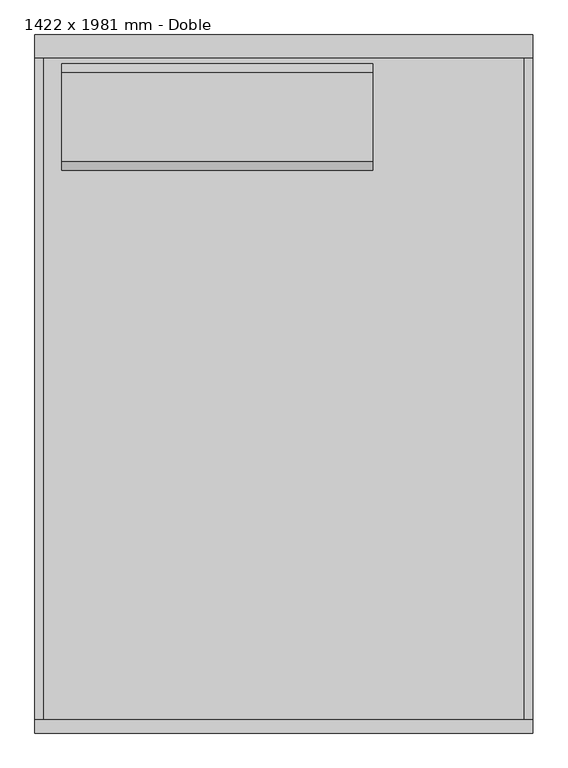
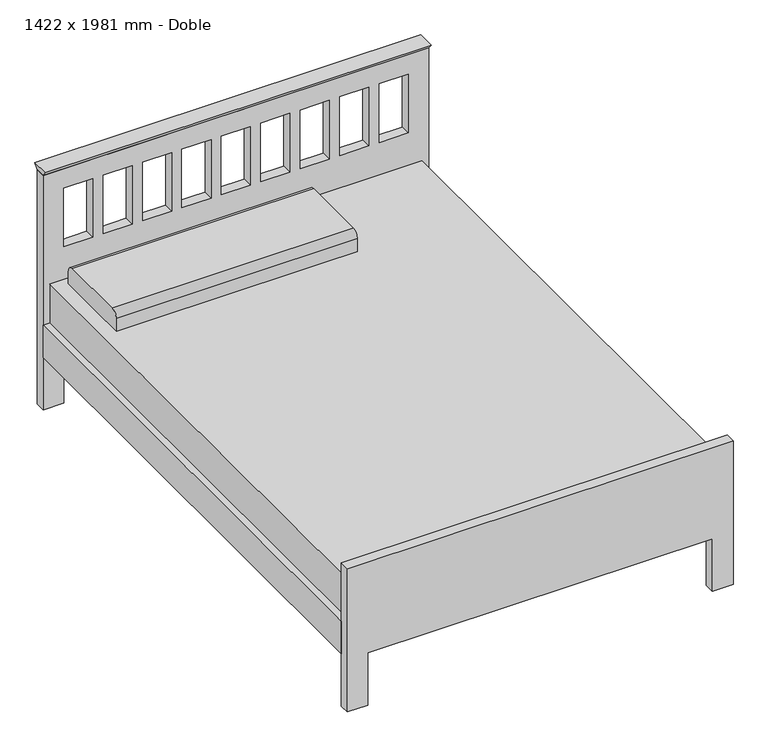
"""IFC4 building model written with IfcOpenShell, lengths in millimetres: furniture geometry, Cama-Agitador : 1422 x 1981 mm - Doble."""

from ifc_helpers import new_model, si_unit, point, frame, frame_2d, origin, place, context, project, spatial, polyline, circle_curve, trimmed, segment, composite_curve, outline, extrude, source, transform, mapped, element, save


def furniture_1422_x_1981_mm_doble_c85bece8(model_context):
    return source(origin(), model_context, "Body", "SweptSolid", [
        extrude(outline(polyline([(666.75, -38.1), (666.75, -1943.1), (-704.85, -1943.1), (-704.85, -38.1), (666.75, -38.1)])), frame((0.0, 0.0, 228.6), z_axis=(0.0, 0.0, 1.0), x_axis=(1.0, 0.0, 0.0)), (0.0, 0.0, 1.0), 254.0),
        extrude(outline(polyline([(666.75, -1943.1), (666.75, -38.1), (692.15, -38.1), (692.15, -1943.1), (666.75, -1943.1)])), frame((0.0, 0.0, 203.0994861), z_axis=(0.0, 0.0, 1.0), x_axis=(1.0, 0.0, 0.0)), (0.0, 0.0, 1.0), 127.0),
        extrude(outline(polyline([(-730.25, -1943.1), (-730.25, -38.1), (-704.85, -38.1), (-704.85, -1943.1), (-730.25, -1943.1)])), frame((0.0, 0.0, 203.5755296), z_axis=(0.0, 0.0, 1.0), x_axis=(1.0, 0.0, 0.0)), (0.0, 0.0, 1.0), 127.0),
        extrude(outline(polyline([(0.0, -654.05), (203.2, -654.05), (203.2, 615.95), (0.0, 615.95), (0.0, 692.15), (558.8, 692.15), (558.8, -730.25), (0.0, -730.25), (0.0, -654.05)])), frame((0.0, -1981.2, 0.0), z_axis=(0.0, 1.0, 0.0), x_axis=(0.0, 0.0, 1.0)), (0.0, 0.0, 1.0), 38.1),
        extrude(outline(polyline([(914.4, 692.4168067), (914.4, -730.0365546), (0.0, -730.0365546), (0.0, -654.05), (203.2, -654.05), (203.2, 234.95), (0.0, 234.95), (0.0, 692.4168067), (914.4, 692.4168067)]), holes=[polyline([(838.2, -546.8055556), (609.6, -546.8055556), (609.6, -654.05), (838.2, -654.05), (838.2, -546.8055556)]), polyline([(838.2, -401.4611111), (609.6, -401.4611111), (609.6, -508.7055556), (838.2, -508.7055556), (838.2, -401.4611111)]), polyline([(838.2, -256.1166667), (609.6, -256.1166667), (609.6, -363.3611111), (838.2, -363.3611111), (838.2, -256.1166667)]), polyline([(838.2, -110.7722222), (609.6, -110.7722222), (609.6, -218.0166667), (838.2, -218.0166667), (838.2, -110.7722222)]), polyline([(838.2, 179.9166667), (609.6, 179.9166667), (609.6, 72.6722222), (838.2, 72.6722222), (838.2, 179.9166667)]), polyline([(838.2, 325.2611111), (609.6, 325.2611111), (609.6, 218.0166667), (838.2, 218.0166667), (838.2, 325.2611111)]), polyline([(838.2, 470.6055556), (609.6, 470.6055556), (609.6, 363.3611111), (838.2, 363.3611111), (838.2, 470.6055556)]), polyline([(838.2, 615.95), (609.6, 615.95), (609.6, 508.7055556), (838.2, 508.7055556), (838.2, 615.95)]), polyline([(838.2, 34.5722222), (609.6, 34.5722222), (609.6, -72.6722222), (838.2, -72.6722222), (838.2, 34.5722222)])]), frame((0.0, -38.1, 0.0), z_axis=(0.0, 1.0, 0.0), x_axis=(0.0, 0.0, 1.0)), (0.0, 0.0, 1.0), 38.1),
        extrude(outline(polyline([(-38.1, 914.4), (-51.9545455, 933.45), (13.8545455, 933.45), (0.0, 914.4), (-38.1, 914.4)])), frame((-730.0365546, 0.0, 0.0), z_axis=(1.0, 0.0, 0.0), x_axis=(0.0, 1.0, 0.0)), (0.0, 0.0, 1.0), 1422.4533613),
        extrude(outline(composite_curve([segment(polyline([(-373.2486637, 482.6), (-373.2486637, 533.4)]), True, "CONTINUOUS"), segment(trimmed(circle_curve(frame_2d((-347.8486637, 533.4)), 25.4), [point((-373.2486637, 533.4))], [point((-347.8486637, 558.8))], False, "CARTESIAN"), True, "CONTINUOUS"), segment(polyline([(-347.8486637, 558.8), (-93.8486637, 558.8)]), True, "CONTINUOUS"), segment(trimmed(circle_curve(frame_2d((-93.8486637, 533.4)), 25.4), [point((-93.8486637, 558.8))], [point((-68.4486637, 533.4))], False, "CARTESIAN"), True, "CONTINUOUS"), segment(polyline([(-68.4486637, 533.4), (-68.4486637, 482.6), (-373.2486637, 482.6)]), True, "CONTINUOUS")], self_intersect=False)), frame((-654.05, 0.0, 0.0), z_axis=(1.0, 0.0, 0.0), x_axis=(0.0, 1.0, 0.0)), (0.0, 0.0, 1.0), 889.0),
    ])


if __name__ == "__main__":
    model = new_model("IFC4")
    model_context = context("Model", 3, world=origin())
    ifc_project = project(units=[si_unit("LENGTHUNIT", "METRE", prefix="MILLI")], contexts=[model_context])
    site = spatial("IfcSite", under=ifc_project)
    building = spatial("IfcBuilding", under=site)
    placement = place(None, origin())
    furniture_1422_x_1981_mm_doble_shape = furniture_1422_x_1981_mm_doble_c85bece8(model_context)
    element("IfcFurniture", 1, ObjectType="Cama-Agitador : 1422 x 1981 mm - Doble", at=placement, inside=building, context=model_context, shape_type="MappedRepresentation", body=[
        mapped(furniture_1422_x_1981_mm_doble_shape, transform((0.0, 0.0, 0.0), x_axis=(1.0, 0.0, 0.0), y_axis=(0.0, 1.0, 0.0), z_axis=(0.0, 0.0, 1.0))),
    ])
    save(model, "model.ifc")
